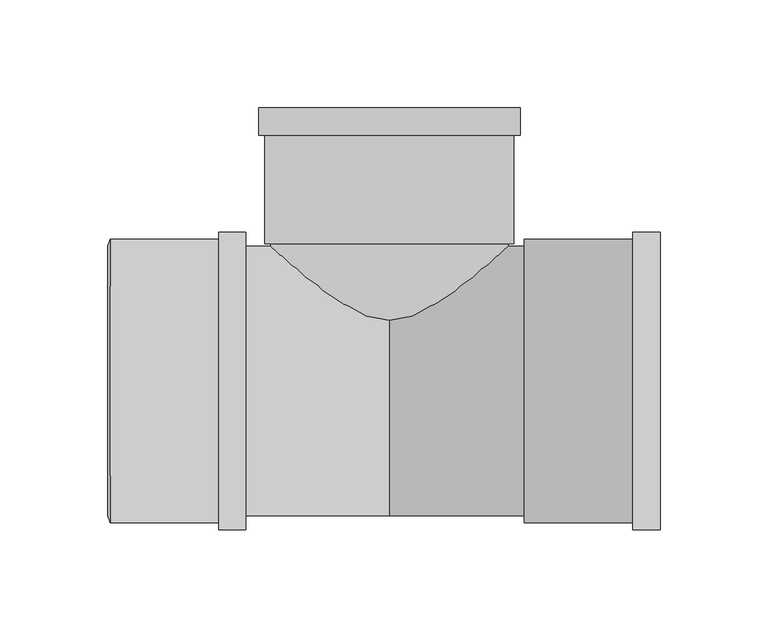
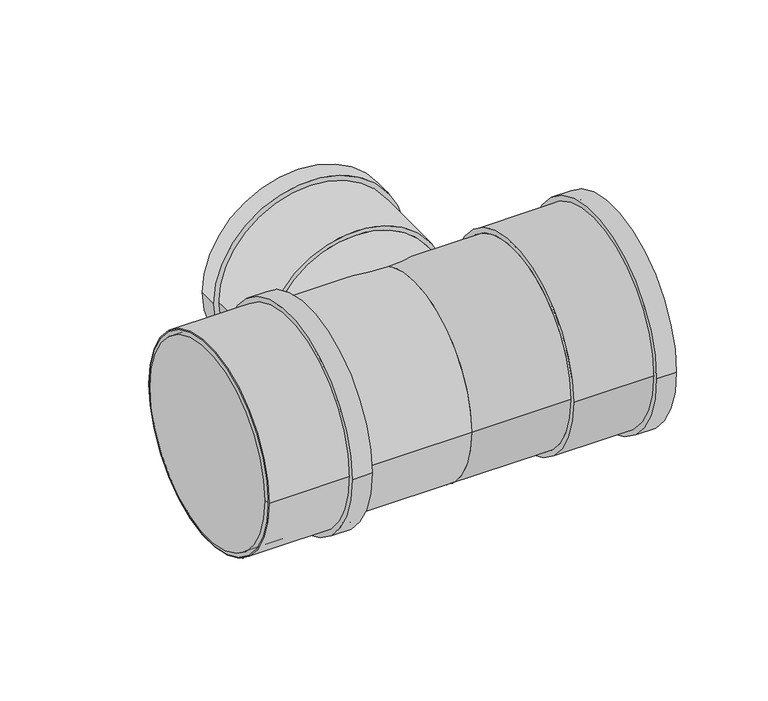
"""IFC4 building model written with IfcOpenShell, lengths in millimetres: pipe fitting geometry, Superdrain HTEA Branch : Superdrain HTEA Branch."""

from ifc_helpers import new_model, si_unit, point, frame, origin, origin_2d, place, context, project, spatial, polyline, circle_curve, trimmed, segment, composite_curve, outline, extrude, source, transform, mapped, element, save
from ifc_brep_helpers import plane_surface, revolved_surface, advanced_brep


def pipe_fitting_3d0b15dd(model_context):
    return source(origin(), model_context, "Body", "SolidModel", [
        extrude(outline(composite_curve([segment(trimmed(circle_curve(origin_2d(), 65.625), [point((65.625, 0.0))], [point((-65.625, 0.0))], False, "CARTESIAN"), True, "CONTINUOUS"), segment(trimmed(circle_curve(origin_2d(), 65.625), [point((-65.625, 0.0))], [point((65.625, 0.0))], False, "CARTESIAN"), True, "CONTINUOUS")], self_intersect=False), holes=[composite_curve([segment(trimmed(circle_curve(origin_2d(), 62.5), [point((62.5, 0.0))], [point((-62.5, 0.0))], True, "CARTESIAN"), True, "CONTINUOUS"), segment(trimmed(circle_curve(origin_2d(), 62.5), [point((-62.5, 0.0))], [point((62.5, 0.0))], True, "CARTESIAN"), True, "CONTINUOUS")], self_intersect=False)]), frame((-129.5, 0.0, 0.0), z_axis=(1.0, 0.0, 0.0), x_axis=(0.0, 1.0, 0.0)), (0.0, 0.0, 1.0), 63.0),
        extrude(outline(composite_curve([segment(trimmed(circle_curve(origin_2d(), 68.90625), [point((68.90625, 0.0))], [point((-68.90625, 0.0))], False, "CARTESIAN"), True, "CONTINUOUS"), segment(trimmed(circle_curve(origin_2d(), 68.90625), [point((-68.90625, 0.0))], [point((68.90625, 0.0))], False, "CARTESIAN"), True, "CONTINUOUS")], self_intersect=False), holes=[composite_curve([segment(trimmed(circle_curve(origin_2d(), 62.5), [point((62.5, 0.0))], [point((-62.5, 0.0))], True, "CARTESIAN"), True, "CONTINUOUS"), segment(trimmed(circle_curve(origin_2d(), 62.5), [point((-62.5, 0.0))], [point((62.5, 0.0))], True, "CARTESIAN"), True, "CONTINUOUS")], self_intersect=False)]), frame((-79.1, 0.0, 0.0), z_axis=(1.0, 0.0, 0.0), x_axis=(0.0, 1.0, 0.0)), (0.0, 0.0, 1.0), 12.6),
        advanced_brep(
        [(-130.5, 62.5, 0.0), (-130.5, -62.5, 0.0), (-129.5, 65.625, 0.0), (-129.5, -65.625, 0.0)],
        [
            (0, 1, circle_curve(frame((-130.5, 0.0, 0.0), z_axis=(-1.0, 0.0, 0.0), x_axis=(0.0, 1.0, 0.0)), 62.5)),
            (1, 0, circle_curve(frame((-130.5, 0.0, 0.0), z_axis=(-1.0, 0.0, 0.0), x_axis=(0.0, -1.0, 0.0)), 62.5)),
            (2, 3, circle_curve(frame((-129.5, 0.0, 0.0), z_axis=(1.0, 0.0, 0.0), x_axis=(0.0, -1.0, 0.0)), 65.625)),
            (3, 2, circle_curve(frame((-129.5, 0.0, 0.0), z_axis=(1.0, 0.0, 0.0), x_axis=(0.0, 1.0, 0.0)), 65.625)),
            (3, 1),
            (0, 2),
        ],
        [
            plane_surface(frame((-130.5, 0.0, 0.0), z_axis=(-1.0, 0.0, 0.0), x_axis=(0.0, 0.0, -1.0))),
            plane_surface(frame((-129.5, 0.0, 0.0), z_axis=(1.0, 0.0, 0.0), x_axis=(0.0, 0.0, -1.0))),
            revolved_surface(polyline([(-130.5, 62.5, 0.0), (-129.5, 65.625, 0.0)]), (-150.5, 0.0, 0.0), (1.0, 0.0, 0.0)),
            revolved_surface(polyline([(-130.5, -62.5, 0.0), (-129.5, -65.625, 0.0)]), (-150.5, 0.0, 0.0), (1.0, 0.0, 0.0)),
        ],
        [
            (0, [[1, 2]]),
            (1, [[3, 4]]),
            (2, [[-4, 5, -1, 6]]),
            (3, [[-3, -6, -2, -5]]),
        ],
    ),
        extrude(outline(composite_curve([segment(trimmed(circle_curve(origin_2d(), 65.625), [point((-65.625, 0.0))], [point((65.625, 0.0))], False, "CARTESIAN"), True, "CONTINUOUS"), segment(trimmed(circle_curve(origin_2d(), 65.625), [point((65.625, 0.0))], [point((-65.625, 0.0))], False, "CARTESIAN"), True, "CONTINUOUS")], self_intersect=False), holes=[composite_curve([segment(trimmed(circle_curve(origin_2d(), 62.5), [point((62.5, 0.0))], [point((-62.5, 0.0))], True, "CARTESIAN"), True, "CONTINUOUS"), segment(trimmed(circle_curve(origin_2d(), 62.5), [point((-62.5, 0.0))], [point((62.5, 0.0))], True, "CARTESIAN"), True, "CONTINUOUS")], self_intersect=False)]), frame((62.5, 0.0, 0.0), z_axis=(1.0, 0.0, 0.0), x_axis=(0.0, 1.0, 0.0)), (0.0, 0.0, 1.0), 63.0),
        extrude(outline(composite_curve([segment(trimmed(circle_curve(origin_2d(), 68.90625), [point((68.90625, 0.0))], [point((-68.90625, 0.0))], False, "CARTESIAN"), True, "CONTINUOUS"), segment(trimmed(circle_curve(origin_2d(), 68.90625), [point((-68.90625, 0.0))], [point((68.90625, 0.0))], False, "CARTESIAN"), True, "CONTINUOUS")], self_intersect=False), holes=[composite_curve([segment(trimmed(circle_curve(origin_2d(), 62.5), [point((62.5, 0.0))], [point((-62.5, 0.0))], True, "CARTESIAN"), True, "CONTINUOUS"), segment(trimmed(circle_curve(origin_2d(), 62.5), [point((-62.5, 0.0))], [point((62.5, 0.0))], True, "CARTESIAN"), True, "CONTINUOUS")], self_intersect=False)]), frame((112.9, 0.0, 0.0), z_axis=(1.0, 0.0, 0.0), x_axis=(0.0, 1.0, 0.0)), (0.0, 0.0, 1.0), 12.6),
        extrude(outline(composite_curve([segment(trimmed(circle_curve(origin_2d(), 55.0), [point((0.0, 55.0))], [point((0.0, -55.0))], False, "CARTESIAN"), True, "CONTINUOUS"), segment(trimmed(circle_curve(origin_2d(), 55.0), [point((0.0, -55.0))], [point((0.0, 55.0))], False, "CARTESIAN"), True, "CONTINUOUS")], self_intersect=False)), frame((0.0, 0.0, 0.0), z_axis=(0.0, 1.0, 0.0), x_axis=(0.0, 0.0, 1.0)), (0.0, 0.0, 1.0), 63.6),
        extrude(outline(composite_curve([segment(trimmed(circle_curve(origin_2d(), 62.5), [point((62.5, 0.0))], [point((-62.5, 0.0))], False, "CARTESIAN"), True, "CONTINUOUS"), segment(trimmed(circle_curve(origin_2d(), 62.5), [point((-62.5, 0.0))], [point((62.5, 0.0))], False, "CARTESIAN"), True, "CONTINUOUS")], self_intersect=False)), frame((-129.5, 0.0, 0.0), z_axis=(1.0, 0.0, 0.0), x_axis=(0.0, 1.0, 0.0)), (0.0, 0.0, 1.0), 129.5),
        extrude(outline(composite_curve([segment(trimmed(circle_curve(origin_2d(), 62.5), [point((-62.5, 0.0))], [point((62.5, 0.0))], False, "CARTESIAN"), True, "CONTINUOUS"), segment(trimmed(circle_curve(origin_2d(), 62.5), [point((62.5, 0.0))], [point((-62.5, 0.0))], False, "CARTESIAN"), True, "CONTINUOUS")], self_intersect=False)), frame((0.0, 0.0, 0.0), z_axis=(1.0, 0.0, 0.0), x_axis=(0.0, 1.0, 0.0)), (0.0, 0.0, 1.0), 62.5),
        extrude(outline(composite_curve([segment(trimmed(circle_curve(origin_2d(), 60.6375), [point((0.0, 60.6375))], [point((0.0, -60.6375))], False, "CARTESIAN"), True, "CONTINUOUS"), segment(trimmed(circle_curve(origin_2d(), 60.6375), [point((0.0, -60.6375))], [point((0.0, 60.6375))], False, "CARTESIAN"), True, "CONTINUOUS")], self_intersect=False), holes=[composite_curve([segment(trimmed(circle_curve(origin_2d(), 55.0), [point((0.0, 55.0))], [point((0.0, -55.0))], True, "CARTESIAN"), True, "CONTINUOUS"), segment(trimmed(circle_curve(origin_2d(), 55.0), [point((0.0, -55.0))], [point((0.0, 55.0))], True, "CARTESIAN"), True, "CONTINUOUS")], self_intersect=False)]), frame((0.0, 114.0, 0.0), z_axis=(0.0, 1.0, 0.0), x_axis=(0.0, 0.0, 1.0)), (0.0, 0.0, 1.0), 12.6),
        extrude(outline(composite_curve([segment(trimmed(circle_curve(origin_2d(), 57.75), [point((0.0, 57.75))], [point((0.0, -57.75))], False, "CARTESIAN"), True, "CONTINUOUS"), segment(trimmed(circle_curve(origin_2d(), 57.75), [point((0.0, -57.75))], [point((0.0, 57.75))], False, "CARTESIAN"), True, "CONTINUOUS")], self_intersect=False), holes=[composite_curve([segment(trimmed(circle_curve(origin_2d(), 55.0), [point((0.0, 55.0))], [point((0.0, -55.0))], True, "CARTESIAN"), True, "CONTINUOUS"), segment(trimmed(circle_curve(origin_2d(), 55.0), [point((0.0, -55.0))], [point((0.0, 55.0))], True, "CARTESIAN"), True, "CONTINUOUS")], self_intersect=False)]), frame((0.0, 63.6, 0.0), z_axis=(0.0, 1.0, 0.0), x_axis=(0.0, 0.0, 1.0)), (0.0, 0.0, 1.0), 63.0),
    ])


if __name__ == "__main__":
    model = new_model("IFC4")
    model_context = context("Model", 3, world=origin())
    ifc_project = project(units=[si_unit("LENGTHUNIT", "METRE", prefix="MILLI")], contexts=[model_context])
    site = spatial("IfcSite", under=ifc_project)
    building = spatial("IfcBuilding", under=site)
    placement = place(None, origin())
    pipe_fitting_shape = pipe_fitting_3d0b15dd(model_context)
    element("IfcPipeFitting", 1, ObjectType="Superdrain HTEA Branch : Superdrain HTEA Branch", at=placement, inside=building, context=model_context, shape_type="MappedRepresentation", body=[
        mapped(pipe_fitting_shape, transform((0.0, 0.0, 0.0), x_axis=(1.0, 0.0, 0.0), y_axis=(0.0, 1.0, 0.0), z_axis=(0.0, 0.0, 1.0))),
    ])
    save(model, "model.ifc")
